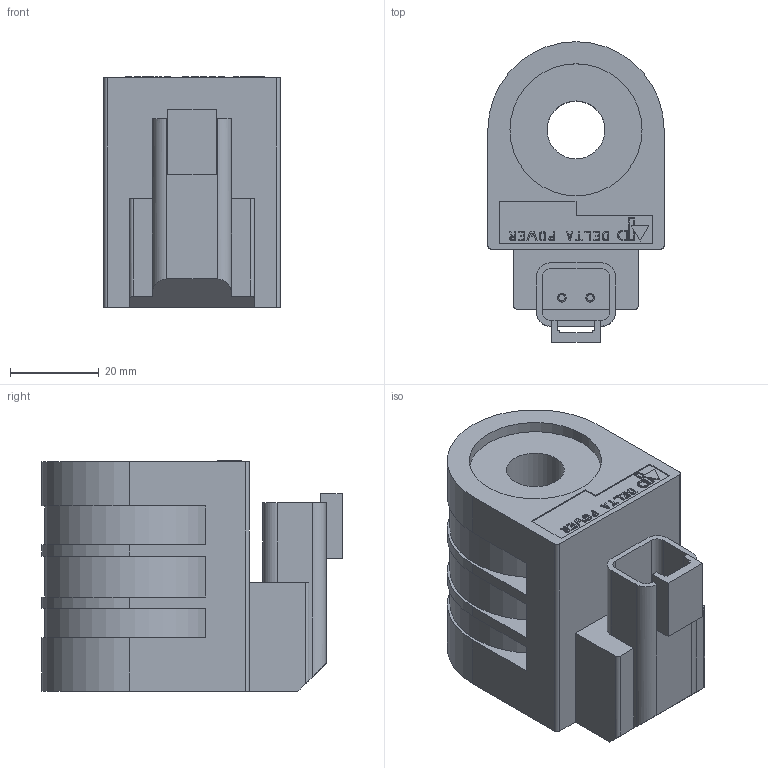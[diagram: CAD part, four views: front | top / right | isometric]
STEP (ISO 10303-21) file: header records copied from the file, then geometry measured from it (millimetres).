
FILE_DESCRIPTION((''),'2;1');
FILE_NAME('U:\Solid model CD\Solid model full\Coils\STEP\DDI.stp','2009-01-16T15:05:21',('Dan'),(''),'Autodesk Inventor 2009','Autodesk Inventor 2009','');
FILE_SCHEMA(('AUTOMOTIVE_DESIGN { 1 0 10303 214 1 1 1 1 }'));
Length unit declared in the file: inch
Products named in the file (1): DDI
Bounding box: 39.62 x 67.54 x 51.82 mm (x, y, z)
Volume: 84850.4 mm3; surface area: 19071.8 mm2
Topology: 13 solids, 13 shells, 245 faces, 645 edges, 429 vertices
Faces by surface type: plane 201, cylinder 42, torus 2
Full cylindrical faces by diameter (mm): 1.96 x2, 13.005 x1, 29.694 x2
Entity records: 7525 total; most frequent: CARTESIAN_POINT 1311, ORIENTED_EDGE 1274, DIRECTION 1215, EDGE_CURVE 637, VECTOR 551, LINE 551, VERTEX_POINT 428, AXIS2_PLACEMENT_3D 332
